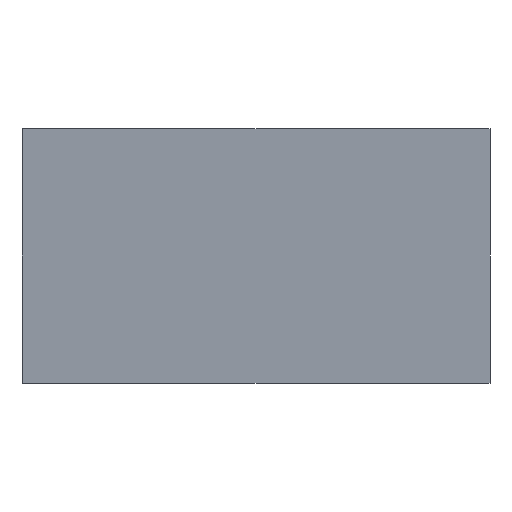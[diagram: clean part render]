
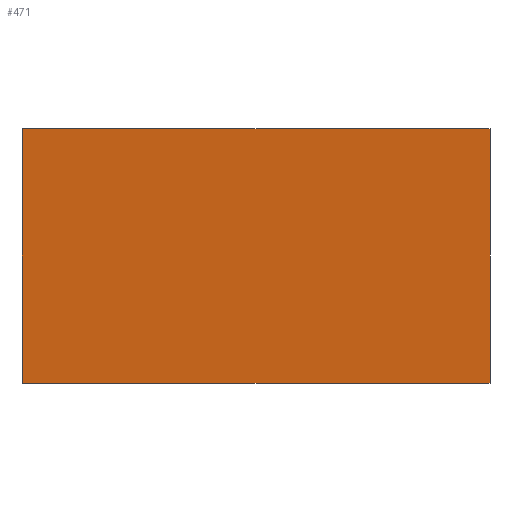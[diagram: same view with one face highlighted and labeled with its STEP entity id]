
A CAD part, front view. The second image highlights one B-rep face of the part: STEP entity #471.
In plain terms, the highlighted planar face has unit normal (0, -0.995, -0.104).
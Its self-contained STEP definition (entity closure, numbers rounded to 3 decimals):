
#44 = PLANE('',#45);
#45 = AXIS2_PLACEMENT_3D('',#46,#47,#48);
#46 = CARTESIAN_POINT('',(-29.,-7.072,-106.5));
#47 = DIRECTION('',(1.,0.,0.));
#48 = DIRECTION('',(-0.,0.,1.));
#71 = PLANE('',#72);
#72 = AXIS2_PLACEMENT_3D('',#73,#74,#75);
#73 = CARTESIAN_POINT('',(-400.,-400.,-88.));
#74 = DIRECTION('',(0.,0.,1.));
#75 = DIRECTION('',(1.,0.,0.));
#122 = PLANE('',#123);
#123 = AXIS2_PLACEMENT_3D('',#124,#125,#126);
#124 = CARTESIAN_POINT('',(-29.,-9.144,-63.));
#125 = DIRECTION('',(0.,0.,-1.));
#126 = DIRECTION('',(0.,-1.,0.));
#138 = VERTEX_POINT('',#139);
#139 = CARTESIAN_POINT('',(-29.,-11.516,-88.));
#160 = VERTEX_POINT('',#161);
#161 = CARTESIAN_POINT('',(-29.,-14.144,-63.));
#182 = EDGE_CURVE('',#160,#138,#183,.T.);
#183 = SURFACE_CURVE('',#184,(#188,#195),.PCURVE_S1.);
#184 = LINE('',#185,#186);
#185 = CARTESIAN_POINT('',(-29.,-14.144,-63.));
#186 = VECTOR('',#187,1.);
#187 = DIRECTION('',(0.,0.105,-0.995));
#188 = PCURVE('',#44,#189);
#189 = DEFINITIONAL_REPRESENTATION('',(#190),#194);
#190 = LINE('',#191,#192);
#191 = CARTESIAN_POINT('',(43.5,7.072));
#192 = VECTOR('',#193,1.);
#193 = DIRECTION('',(-0.995,-0.105));
#194 = ( GEOMETRIC_REPRESENTATION_CONTEXT(2) 
PARAMETRIC_REPRESENTATION_CONTEXT() REPRESENTATION_CONTEXT('2D SPACE',''
  ) );
#195 = PCURVE('',#196,#201);
#196 = PLANE('',#197);
#197 = AXIS2_PLACEMENT_3D('',#198,#199,#200);
#198 = CARTESIAN_POINT('',(-29.,-14.144,-63.));
#199 = DIRECTION('',(-0.,0.995,0.105));
#200 = DIRECTION('',(0.,0.105,-0.995));
#201 = DEFINITIONAL_REPRESENTATION('',(#202),#206);
#202 = LINE('',#203,#204);
#203 = CARTESIAN_POINT('',(0.,0.));
#204 = VECTOR('',#205,1.);
#205 = DIRECTION('',(1.,0.));
#206 = ( GEOMETRIC_REPRESENTATION_CONTEXT(2) 
PARAMETRIC_REPRESENTATION_CONTEXT() REPRESENTATION_CONTEXT('2D SPACE',''
  ) );
#289 = VERTEX_POINT('',#290);
#290 = CARTESIAN_POINT('',(17.,-14.144,-63.));
#304 = PLANE('',#305);
#305 = AXIS2_PLACEMENT_3D('',#306,#307,#308);
#306 = CARTESIAN_POINT('',(17.,-7.072,-106.5));
#307 = DIRECTION('',(1.,0.,0.));
#308 = DIRECTION('',(-0.,0.,1.));
#316 = EDGE_CURVE('',#160,#289,#317,.T.);
#317 = SURFACE_CURVE('',#318,(#322,#329),.PCURVE_S1.);
#318 = LINE('',#319,#320);
#319 = CARTESIAN_POINT('',(-29.,-14.144,-63.));
#320 = VECTOR('',#321,1.);
#321 = DIRECTION('',(1.,0.,0.));
#322 = PCURVE('',#122,#323);
#323 = DEFINITIONAL_REPRESENTATION('',(#324),#328);
#324 = LINE('',#325,#326);
#325 = CARTESIAN_POINT('',(5.,0.));
#326 = VECTOR('',#327,1.);
#327 = DIRECTION('',(0.,-1.));
#328 = ( GEOMETRIC_REPRESENTATION_CONTEXT(2) 
PARAMETRIC_REPRESENTATION_CONTEXT() REPRESENTATION_CONTEXT('2D SPACE',''
  ) );
#329 = PCURVE('',#196,#330);
#330 = DEFINITIONAL_REPRESENTATION('',(#331),#335);
#331 = LINE('',#332,#333);
#332 = CARTESIAN_POINT('',(0.,0.));
#333 = VECTOR('',#334,1.);
#334 = DIRECTION('',(0.,-1.));
#335 = ( GEOMETRIC_REPRESENTATION_CONTEXT(2) 
PARAMETRIC_REPRESENTATION_CONTEXT() REPRESENTATION_CONTEXT('2D SPACE',''
  ) );
#390 = VERTEX_POINT('',#391);
#391 = CARTESIAN_POINT('',(17.,-11.516,-88.));
#453 = EDGE_CURVE('',#138,#390,#454,.T.);
#454 = SURFACE_CURVE('',#455,(#459,#465),.PCURVE_S1.);
#455 = LINE('',#456,#457);
#456 = CARTESIAN_POINT('',(-214.5,-11.516,-88.));
#457 = VECTOR('',#458,1.);
#458 = DIRECTION('',(1.,0.,-0.));
#459 = PCURVE('',#71,#460);
#460 = DEFINITIONAL_REPRESENTATION('',(#461),#464);
#461 = B_SPLINE_CURVE_WITH_KNOTS('',1,(#462,#463),.UNSPECIFIED.,.F.,.F.,
  (2,2),(185.5,231.5),.PIECEWISE_BEZIER_KNOTS.);
#462 = CARTESIAN_POINT('',(371.,388.484));
#463 = CARTESIAN_POINT('',(417.,388.484));
#464 = ( GEOMETRIC_REPRESENTATION_CONTEXT(2) 
PARAMETRIC_REPRESENTATION_CONTEXT() REPRESENTATION_CONTEXT('2D SPACE',''
  ) );
#465 = PCURVE('',#196,#466);
#466 = DEFINITIONAL_REPRESENTATION('',(#467),#470);
#467 = B_SPLINE_CURVE_WITH_KNOTS('',1,(#468,#469),.UNSPECIFIED.,.F.,.F.,
  (2,2),(185.5,231.5),.PIECEWISE_BEZIER_KNOTS.);
#468 = CARTESIAN_POINT('',(25.138,0.));
#469 = CARTESIAN_POINT('',(25.138,-46.));
#470 = ( GEOMETRIC_REPRESENTATION_CONTEXT(2) 
PARAMETRIC_REPRESENTATION_CONTEXT() REPRESENTATION_CONTEXT('2D SPACE',''
  ) );
#471 = ADVANCED_FACE('',(#472),#196,.F.);
#472 = FACE_BOUND('',#473,.F.);
#473 = EDGE_LOOP('',(#474,#475,#476,#497));
#474 = ORIENTED_EDGE('',*,*,#182,.F.);
#475 = ORIENTED_EDGE('',*,*,#316,.T.);
#476 = ORIENTED_EDGE('',*,*,#477,.T.);
#477 = EDGE_CURVE('',#289,#390,#478,.T.);
#478 = SURFACE_CURVE('',#479,(#483,#490),.PCURVE_S1.);
#479 = LINE('',#480,#481);
#480 = CARTESIAN_POINT('',(17.,-14.144,-63.));
#481 = VECTOR('',#482,1.);
#482 = DIRECTION('',(0.,0.105,-0.995));
#483 = PCURVE('',#196,#484);
#484 = DEFINITIONAL_REPRESENTATION('',(#485),#489);
#485 = LINE('',#486,#487);
#486 = CARTESIAN_POINT('',(0.,-46.));
#487 = VECTOR('',#488,1.);
#488 = DIRECTION('',(1.,0.));
#489 = ( GEOMETRIC_REPRESENTATION_CONTEXT(2) 
PARAMETRIC_REPRESENTATION_CONTEXT() REPRESENTATION_CONTEXT('2D SPACE',''
  ) );
#490 = PCURVE('',#304,#491);
#491 = DEFINITIONAL_REPRESENTATION('',(#492),#496);
#492 = LINE('',#493,#494);
#493 = CARTESIAN_POINT('',(43.5,7.072));
#494 = VECTOR('',#495,1.);
#495 = DIRECTION('',(-0.995,-0.105));
#496 = ( GEOMETRIC_REPRESENTATION_CONTEXT(2) 
PARAMETRIC_REPRESENTATION_CONTEXT() REPRESENTATION_CONTEXT('2D SPACE',''
  ) );
#497 = ORIENTED_EDGE('',*,*,#453,.F.);
